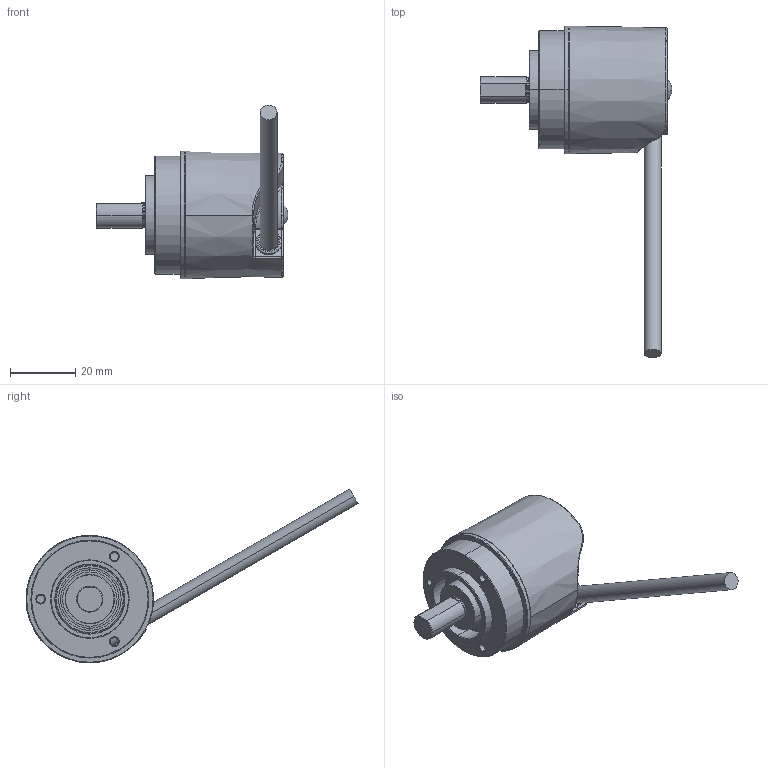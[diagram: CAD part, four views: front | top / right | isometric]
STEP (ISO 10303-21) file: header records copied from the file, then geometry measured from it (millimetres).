
FILE_DESCRIPTION (( 'STEP AP214' ), '1' );
FILE_NAME ('F3658.3321.XXXX.STEP', '2010-02-22T12:51:25', ( 'Winter' ), ( 'Fritz Kübler GmbH' ), 'SwSTEP 2.0', 'SolidWorks 2009', '' );
FILE_SCHEMA (( 'AUTOMOTIVE_DESIGN' ));
Length unit declared in the file: millimetre
Products named in the file (1): F3658.3321.XXXX
Bounding box: 58.63 x 101.42 x 53.11 mm (x, y, z)
Surface area: 10964.3 mm2 (no closed solid volume)
Topology: 0 solids, 20 shells, 188 faces, 817 edges, 643 vertices
Faces by surface type: plane 58, cylinder 50, cone 33, bspline 26, torus 16, sphere 5
Entity records: 12544 total; most frequent: CARTESIAN_POINT 4291, DIRECTION 1156, ORIENTED_EDGE 1154, EDGE_CURVE 816, VERTEX_POINT 643, VECTOR 402, LINE 402, AXIS2_PLACEMENT_3D 377
